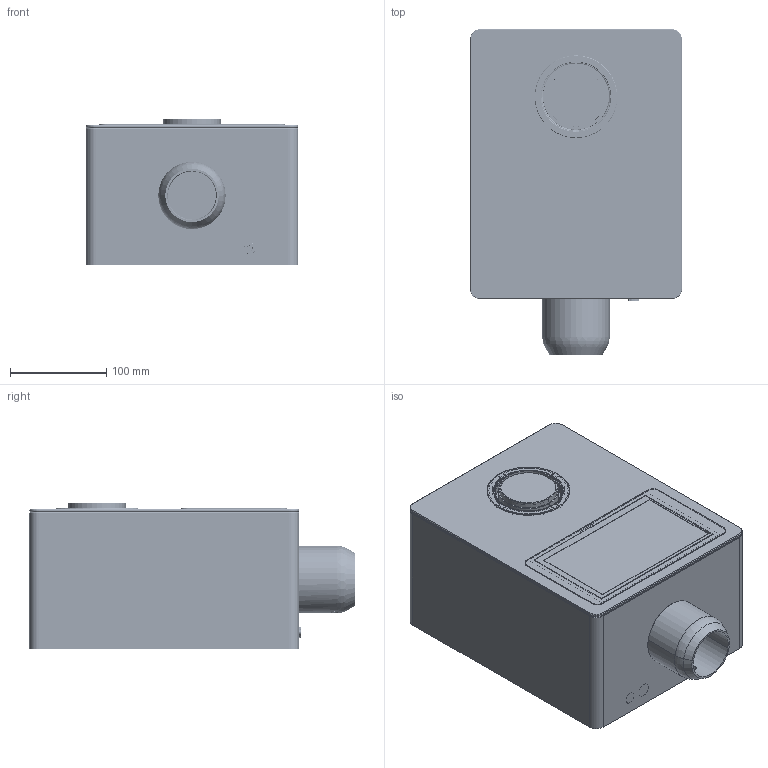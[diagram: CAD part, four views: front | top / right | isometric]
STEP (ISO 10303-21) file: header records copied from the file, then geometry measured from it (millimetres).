
FILE_DESCRIPTION (( 'STEP AP214' ), '1' );
FILE_NAME ('booth-100-000_dslr-7inch.STEP', '2024-09-13T18:06:58', ( '' ), ( '' ), 'SwSTEP 2.0', 'SolidWorks 2024', '' );
FILE_SCHEMA (( 'AUTOMOTIVE_DESIGN' ));
Length unit declared in the file: millimetre
Products named in the file (45): booth-300-000; booth-100-000_100; UART for REF; screen_ws-7inch; booth-100-000_015; GPIO Header for REF; USB-C for REF; 2_54MM_2X3PIN-SMT; 7inch-dsi-lcd-c; RaspberryPi5; PoE Header for REF; EN ISO 4762 M3 x 6 - 6N_EN ISO 4762 M3 x 6 - 6N; PCIe for REF; 7INCH-800X480-TP; PCB_for REF 060923; booth-101-000_dslr-7inch; CAM-DISP for REF; USB for REF; Jack carica; EN ISO 4762 M3 x 10 - 10N_EN ISO 4762 M3 x 10 - 10N; BAT Header for REF; Micro HDMI for REF; booth-100-000_014; 7INCH-DSI-LCD-C-PCB; SMTSO-M2_5-6ET; booth-100-000_006_M3-5,7-4,6; FAN Header for REF; SD CARD for REF; LED for REF; Canon_Rebel_T3i-mod; DIN 912 M3 x 16 --- 16N_DIN 912 M3 x 16 --- 16N; booth-100-110_003; booth-100-000_003_dslr-7inch; booth-100-000_dslr-7inch; SMTSO-M3-1_5ET; booth-100-000_001_deep; booth-200-000; 7INCH-DSI-LCD-PCBA-20230912_ASM; booth-100-000_002; RJ45 for REF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
Assembly tree (72 placements, depth 6):
  booth-100-000_dslr-7inch
    booth-101-000_dslr-7inch
      booth-100-000_003_dslr-7inch
      screen_ws-7inch
        7inch-dsi-lcd-c
          7INCH-DSI-LCD-PCBA-20230912_ASM
            SMTSO-M2_5-6ET  x4
            SMTSO-M3-1_5ET  x4
          7INCH-800X480-TP
          7INCH-800X480-LCD
          7INCH-DSI-LCD-C-PCB
          2_54MM_2X3PIN-SMT
        booth-100-000_014
        EN ISO 4762 M3 x 10 - 10N_EN ISO 4762 M3 x 10 - 10N  x4
        EN ISO 4762 M3 x 6 - 6N_EN ISO 4762 M3 x 6 - 6N  x4
      booth-100-120
        Canon_Rebel_T3i-mod
        booth-100-000_100
        DIN 912 M3 x 10 --- 10N_DIN 912 M3 x 10 --- 10N  x4
      booth-100-110_003
      led-ring-5v-rgb-27-38mm_24bit-73-85
      RaspberryPi5
        PCB_for REF 060923
        GPIO Header for REF
        Micro HDMI for REF  x2
        SD CARD for REF
        USB-C for REF
        RJ45 for REF
        USB for REF  x2
        PCIe for REF
        CAM-DISP for REF  x2
        LED for REF
        BAT Header for REF
        PoE Header for REF
        FAN Header for REF
        SWITCH for REF
        UART for REF
      booth-100-000_006_M3-5,7-4,6  x4
    booth-200-000
      booth-100-000_001_deep
      Jack carica
      DIN 912 M3 x 16 --- 16N_DIN 912 M3 x 16 --- 16N  x8
    booth-300-000
      booth-100-000_002
    booth-100-000_015
Bounding box: 220 x 338 x 151.17 mm (x, y, z)
Volume: 2125937.9 mm3; surface area: 859795.3 mm2
Topology: 99 solids, 100 shells, 5664 faces, 14616 edges, 9429 vertices
Faces by surface type: plane 3341, cylinder 1819, cone 274, bspline 113, torus 110, sphere 7
Entity records: 140122 total; most frequent: CARTESIAN_POINT 33243, ORIENTED_EDGE 21948, DIRECTION 21596, EDGE_CURVE 10974, LINE 7662, VECTOR 7662, VERTEX_POINT 7150, AXIS2_PLACEMENT_3D 6967
